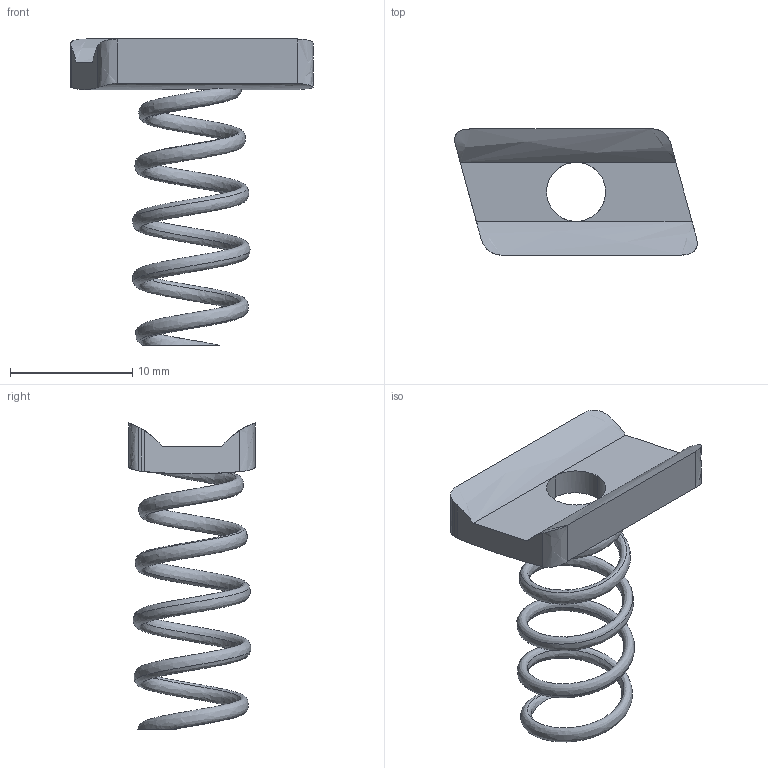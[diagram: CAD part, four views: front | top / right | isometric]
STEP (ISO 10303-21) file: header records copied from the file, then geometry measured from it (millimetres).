
FILE_DESCRIPTION(('TurboCAD Mac Pro'),'Build 980');
FILE_NAME('P6006-1024.stp',' ',(''),(''),'ACIS Interop','IMSI','TurboCAD Mac Pro BY IMSI, INCORPORATED');
FILE_SCHEMA(('automotive_design'));
Length unit declared in the file: inch
Products named in the file (1): 1
Bounding box: 19.82 x 10.31 x 25.01 mm (x, y, z)
Volume: 557.6 mm3; surface area: 981.9 mm2
Topology: 1 solids, 1 shells, 27 faces, 77 edges, 51 vertices
Faces by surface type: bspline 15, plane 12
Entity records: 3029 total; most frequent: CARTESIAN_POINT 2215, ORIENTED_EDGE 154, EDGE_CURVE 77, DIRECTION 57, VERTEX_POINT 51, B_SPLINE_CURVE_WITH_KNOTS 46, LINE 31, VECTOR 31
